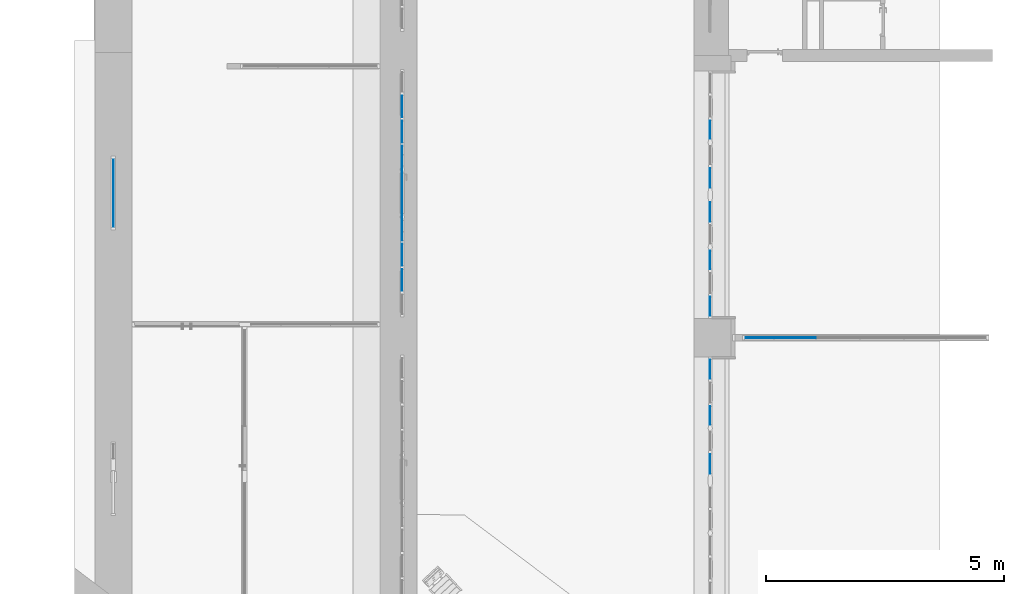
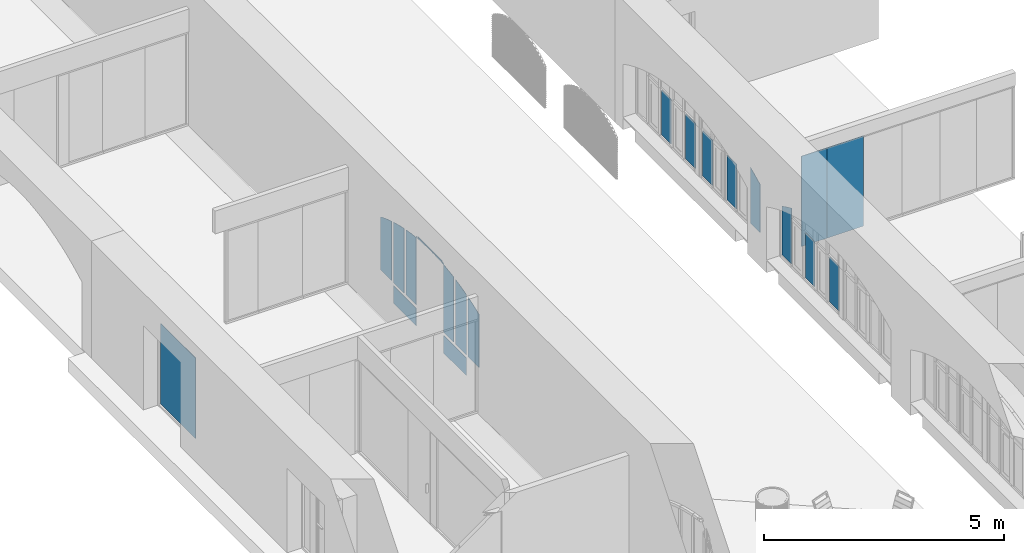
# One storey, part 54 of 88: 20 plates, 5 elements without a shape of their own.
"""IFC2X3 building model written with IfcOpenShell, lengths in millimetres."""

from ifc_helpers import new_model, entity, si_unit, converted_unit, derived_unit, direction, frame, frame_2d, origin, origin_2d_with_axis, place, context, subcontext, project, spatial, polyline, circle_curve, parameter, trimmed, segment, composite_curve, rectangle, outline, extrude, face_set, surface_model, source, transform, mapped, material, type_object, type_shapes, element, aggregate, save


model = new_model("IFC2X3")

# Units and contexts
model_context = context("Model", 3, precision=0.01, world=origin(), true_north=direction((6.123031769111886e-17, 1.0)))
body_context = subcontext(model_context, "Body", "Model", "MODEL_VIEW")
ifc_project = project(units=[si_unit("LENGTHUNIT", "METRE", prefix="MILLI"), si_unit("AREAUNIT", "SQUARE_METRE"), si_unit("VOLUMEUNIT", "CUBIC_METRE"), converted_unit("PLANEANGLEUNIT", "DEGREE", entity("IfcPlaneAngleMeasure", 0.017453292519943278), si_unit("PLANEANGLEUNIT", "RADIAN"), dimensions=[0, 0, 0, 0, 0, 0, 0]), si_unit("MASSUNIT", "GRAM", prefix="KILO"), derived_unit("MASSDENSITYUNIT", [(si_unit("MASSUNIT", "GRAM", prefix="KILO"), 1), (si_unit("LENGTHUNIT", "METRE"), -3)]), derived_unit("IONCONCENTRATIONUNIT", [(si_unit("MASSUNIT", "GRAM", prefix="KILO"), 1), (si_unit("LENGTHUNIT", "METRE"), -3)]), derived_unit("MOMENTOFINERTIAUNIT", [(si_unit("LENGTHUNIT", "METRE"), 4)]), si_unit("TIMEUNIT", "SECOND"), si_unit("FREQUENCYUNIT", "HERTZ"), si_unit("THERMODYNAMICTEMPERATUREUNIT", "DEGREE_CELSIUS"), derived_unit("THERMALTRANSMITTANCEUNIT", [(si_unit("MASSUNIT", "GRAM", prefix="KILO"), 1), (si_unit("THERMODYNAMICTEMPERATUREUNIT", "KELVIN"), -1), (si_unit("TIMEUNIT", "SECOND"), -3)]), derived_unit("THERMALCONDUCTANCEUNIT", [(si_unit("MASSUNIT", "GRAM", prefix="KILO"), 1), (si_unit("THERMODYNAMICTEMPERATUREUNIT", "KELVIN"), -1), (si_unit("TIMEUNIT", "SECOND"), -3), (si_unit("LENGTHUNIT", "METRE"), 1)]), derived_unit("VOLUMETRICFLOWRATEUNIT", [(si_unit("LENGTHUNIT", "METRE", prefix="DECI"), 3), (si_unit("TIMEUNIT", "SECOND"), -1)]), derived_unit("MASSFLOWRATEUNIT", [(si_unit("MASSUNIT", "GRAM", prefix="KILO"), 1), (si_unit("TIMEUNIT", "SECOND"), -1)]), derived_unit("ROTATIONALFREQUENCYUNIT", [(si_unit("TIMEUNIT", "SECOND"), -1)]), si_unit("ELECTRICCURRENTUNIT", "AMPERE"), si_unit("ELECTRICVOLTAGEUNIT", "VOLT"), si_unit("POWERUNIT", "WATT"), si_unit("FORCEUNIT", "NEWTON", prefix="KILO"), si_unit("ILLUMINANCEUNIT", "LUX"), si_unit("LUMINOUSFLUXUNIT", "LUMEN"), si_unit("LUMINOUSINTENSITYUNIT", "CANDELA"), si_unit("ENERGYUNIT", "JOULE"), derived_unit("USERDEFINED", [(si_unit("MASSUNIT", "GRAM", prefix="KILO"), -1), (si_unit("LENGTHUNIT", "METRE"), -2), (si_unit("TIMEUNIT", "SECOND"), 3), (si_unit("LUMINOUSFLUXUNIT", "LUMEN"), 1)]), derived_unit("USERDEFINED", [(si_unit("MASSUNIT", "GRAM", prefix="KILO"), 1), (si_unit("TIMEUNIT", "SECOND"), -3), (si_unit("LENGTHUNIT", "METRE"), 3), (si_unit("ELECTRICCURRENTUNIT", "AMPERE"), -2)]), derived_unit("SOUNDPOWERUNIT", [(si_unit("MASSUNIT", "GRAM", prefix="KILO"), 1), (si_unit("TIMEUNIT", "SECOND"), -3), (si_unit("LENGTHUNIT", "METRE"), 2)]), derived_unit("SOUNDPRESSUREUNIT", [(si_unit("MASSUNIT", "GRAM", prefix="KILO"), 1), (si_unit("LENGTHUNIT", "METRE"), -1), (si_unit("TIMEUNIT", "SECOND"), -2)]), derived_unit("LINEARVELOCITYUNIT", [(si_unit("LENGTHUNIT", "METRE"), 1), (si_unit("TIMEUNIT", "SECOND"), -1)]), si_unit("PRESSUREUNIT", "PASCAL"), derived_unit("USERDEFINED", [(si_unit("MASSUNIT", "GRAM", prefix="KILO"), 1), (si_unit("LENGTHUNIT", "METRE"), -2), (si_unit("TIMEUNIT", "SECOND"), -2)]), derived_unit("LINEARFORCEUNIT", [(si_unit("MASSUNIT", "GRAM", prefix="KILO"), 1), (si_unit("TIMEUNIT", "SECOND"), -2)]), derived_unit("PLANARFORCEUNIT", [(si_unit("MASSUNIT", "GRAM", prefix="KILO"), 1), (si_unit("LENGTHUNIT", "METRE"), -1), (si_unit("TIMEUNIT", "SECOND"), -2)]), derived_unit("SPECIFICHEATCAPACITYUNIT", [(si_unit("THERMODYNAMICTEMPERATUREUNIT", "KELVIN"), -1), (si_unit("LENGTHUNIT", "METRE"), 2), (si_unit("TIMEUNIT", "SECOND"), -2)]), derived_unit("HEATFLUXDENSITYUNIT", [(si_unit("MASSUNIT", "GRAM", prefix="KILO"), 1), (si_unit("TIMEUNIT", "SECOND"), -3)]), derived_unit("HEATINGVALUEUNIT", [(si_unit("LENGTHUNIT", "METRE"), 2), (si_unit("TIMEUNIT", "SECOND"), -2)]), derived_unit("VAPORPERMEABILITYUNIT", [(si_unit("LENGTHUNIT", "METRE"), -1), (si_unit("TIMEUNIT", "SECOND"), 1)]), derived_unit("DYNAMICVISCOSITYUNIT", [(si_unit("MASSUNIT", "GRAM", prefix="KILO"), 1), (si_unit("TIMEUNIT", "SECOND"), -1), (si_unit("LENGTHUNIT", "METRE"), -1)]), derived_unit("THERMALEXPANSIONCOEFFICIENTUNIT", [(si_unit("THERMODYNAMICTEMPERATUREUNIT", "KELVIN"), -1)]), derived_unit("MODULUSOFELASTICITYUNIT", [(si_unit("MASSUNIT", "GRAM", prefix="KILO"), 1), (si_unit("LENGTHUNIT", "METRE"), -1), (si_unit("TIMEUNIT", "SECOND"), -2)]), derived_unit("ISOTHERMALMOISTURECAPACITYUNIT", [(si_unit("MASSUNIT", "GRAM", prefix="KILO"), -1), (si_unit("LENGTHUNIT", "METRE"), 3)]), derived_unit("MOISTUREDIFFUSIVITYUNIT", [(si_unit("TIMEUNIT", "SECOND"), -1), (si_unit("LENGTHUNIT", "METRE"), 2)]), derived_unit("MASSPERLENGTHUNIT", [(si_unit("MASSUNIT", "GRAM", prefix="KILO"), 1), (si_unit("LENGTHUNIT", "METRE"), -1)]), derived_unit("THERMALRESISTANCEUNIT", [(si_unit("MASSUNIT", "GRAM", prefix="KILO"), -1), (si_unit("TIMEUNIT", "SECOND"), 3), (si_unit("THERMODYNAMICTEMPERATUREUNIT", "KELVIN"), 1)]), derived_unit("ACCELERATIONUNIT", [(si_unit("LENGTHUNIT", "METRE"), 1), (si_unit("TIMEUNIT", "SECOND"), -2)]), derived_unit("ANGULARVELOCITYUNIT", [(si_unit("TIMEUNIT", "SECOND"), -1), (si_unit("PLANEANGLEUNIT", "RADIAN"), 1)]), derived_unit("LINEARSTIFFNESSUNIT", [(si_unit("MASSUNIT", "GRAM", prefix="KILO"), 1), (si_unit("TIMEUNIT", "SECOND"), -2)]), derived_unit("WARPINGCONSTANTUNIT", [(si_unit("LENGTHUNIT", "METRE"), 6)]), derived_unit("LINEARMOMENTUNIT", [(si_unit("MASSUNIT", "GRAM", prefix="KILO"), 1), (si_unit("LENGTHUNIT", "METRE"), 1), (si_unit("TIMEUNIT", "SECOND"), -2)]), derived_unit("TORQUEUNIT", [(si_unit("MASSUNIT", "GRAM", prefix="KILO"), 1), (si_unit("LENGTHUNIT", "METRE"), 2), (si_unit("TIMEUNIT", "SECOND"), -2)])], contexts=[model_context])

# Site, building, storey
site_placement = place(None, origin())
site = spatial("IfcSite", under=ifc_project, at=site_placement, Name="Default", CompositionType="ELEMENT")
building_placement = place(site_placement, origin())
building = spatial("IfcBuilding", under=site, at=building_placement, Name="Eesti Rahvusraamatukogu hoone renoveerimise projekteerimistööd", CompositionType="ELEMENT")
storey_placement = place(building_placement, origin())
storey = spatial("IfcBuildingStorey", under=building, at=storey_placement, Name="1. korrus", CompositionType="ELEMENT", Elevation=0.0)

# Curtain wall, plates
curtain_wall_type_1 = type_object("IfcCurtainWallType", Name="Curtain Wall:VLS Klaasvahesein profiilita 38db", PredefinedType="NOTDEFINED")
curtain_wall_1_placement = place(storey_placement, origin())
curtain_wall_1 = element("IfcCurtainWall", 1, at=curtain_wall_1_placement, inside=storey, type_object=curtain_wall_type_1, Name="Curtain Wall:VLS Klaasvahesein profiilita 38db", ObjectType="Curtain Wall:VLS Klaasvahesein profiilita 38db")
ifc_material_1 = material(Name="EST. Klaas. 1x. E-korpus")
plate_type_1 = type_object("IfcPlateType", Name="System Panel:VLS Klaas KAR/LAM 6+1+6", PredefinedType="CURTAIN_PANEL", material=ifc_material_1)
shared_shape_1 = source(origin(), body_context, "Body", "SweptSolid", [
    extrude(rectangle(XDim=13.000000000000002, YDim=618.0000000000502, at=frame_2d((0.0, -5.684341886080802e-14), x_axis=(1.0, 0.0))), frame((0.0, 0.0, 0.0), z_axis=(0.0, 0.0, 1.0), x_axis=(0.0, 1.0, 0.0)), (0.0, 0.0, 1.0), 2300.0000000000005),
])
type_shapes(plate_type_1, [shared_shape_1])
plate_1_placement = place(curtain_wall_1_placement, frame((-35406.499999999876, 18390.0, 1700.0)))
plate_1 = element("IfcPlate", 2, at=plate_1_placement, type_object=plate_type_1, material=ifc_material_1, Name="System Panel:VLS Klaas KAR/LAM 6+1+6", ObjectType="System Panel:VLS Klaas KAR/LAM 6+1+6", context=body_context, shape_type="MappedRepresentation", body=[
    mapped(shared_shape_1, transform((0.0, 0.0, 0.0), scale=1.0)),
])
plate_type_2 = type_object("IfcPlateType", Name="System Panel:VLS Klaas KAR/LAM 6+1+6", PredefinedType="CURTAIN_PANEL", material=ifc_material_1)
shared_shape_2 = source(origin(), body_context, "Body", "SweptSolid", [
    extrude(rectangle(XDim=13.000000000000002, YDim=877.5000000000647, at=origin_2d_with_axis()), frame((0.0, 0.0, 0.0), z_axis=(0.0, 0.0, 1.0), x_axis=(0.0, 1.0, 0.0)), (0.0, 0.0, 1.0), 2300.0000000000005),
])
type_shapes(plate_type_2, [shared_shape_2])
plate_2_placement = place(curtain_wall_1_placement, frame((-34658.749999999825, 18390.0, 1700.0)))
plate_2 = element("IfcPlate", 3, at=plate_2_placement, type_object=plate_type_2, material=ifc_material_1, Name="System Panel:VLS Klaas KAR/LAM 6+1+6", ObjectType="System Panel:VLS Klaas KAR/LAM 6+1+6", context=body_context, shape_type="MappedRepresentation", body=[
    mapped(shared_shape_2, transform((0.0, 0.0, 0.0), scale=1.0)),
])
aggregate(curtain_wall_1, [plate_1, plate_2])

# Curtain wall, plate
curtain_wall_type_2 = type_object("IfcCurtainWallType", Name="Curtain Wall:Ak-02", PredefinedType="NOTDEFINED")
curtain_wall_2_placement = place(storey_placement, origin())
curtain_wall_2 = element("IfcCurtainWall", 4, at=curtain_wall_2_placement, inside=storey, type_object=curtain_wall_type_2, Name="Curtain Wall:Ak-02", ObjectType="Curtain Wall:Ak-02")
ifc_material_2 = material(Name="EST. Klaas. 3x. Default")
plate_type_3 = type_object("IfcPlateType", Name="System Panel:Peegelaknad 6-16-4-16-4, paneel", PredefinedType="CURTAIN_PANEL", material=ifc_material_2)
shared_shape_3 = source(origin(), body_context, "Body", "SweptSolid", [
    extrude(outline(composite_curve([segment(polyline([(-838.8855000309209, -200.0), (351.11449996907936, -200.0)]), True, "CONTINUOUS"), segment(polyline([(351.11449996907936, -200.0), (392.3931648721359, -200.0)]), True, "CONTINUOUS"), segment(trimmed(circle_curve(frame_2d((-4419.029401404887, 2340.0), x_axis=(0.9248280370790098, -0.38038546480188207)), 5440.715680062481), [parameter(354.5275221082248)], [parameter(359.19566238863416)], True, "PARAMETER"), True, "CONTINUOUS"), segment(polyline([(583.1488352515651, 200.0), (351.11449996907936, 200.0)]), True, "CONTINUOUS"), segment(polyline([(351.11449996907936, 200.0), (-838.8855000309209, 200.0)]), True, "CONTINUOUS"), segment(polyline([(-838.8855000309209, 200.0), (-838.8855000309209, -200.0)]), True, "CONTINUOUS")], self_intersect=False)), frame((0.0, -5.0, 838.8855000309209), z_axis=(0.0, 1.0, 0.0), x_axis=(0.0, 0.0, 1.0)), (0.0, 0.0, 1.0), 10.0),
])
type_shapes(plate_type_3, [shared_shape_3])
plate_3_placement = place(curtain_wall_2_placement, frame((-36440.0, 17730.0, 2030.0), z_axis=(0.0, 0.0, 1.0), x_axis=(0.0, -1.0, 0.0)))
plate_3 = element("IfcPlate", 5, at=plate_3_placement, type_object=plate_type_3, material=ifc_material_2, Name="System Panel:Peegelaknad 6-16-4-16-4, paneel", ObjectType="System Panel:Peegelaknad 6-16-4-16-4, paneel", context=body_context, shape_type="MappedRepresentation", body=[
    mapped(shared_shape_3, transform((0.0, 0.0, 0.0), scale=1.0)),
])

# Curtain wall, plates
curtain_wall_3_placement = place(storey_placement, origin())
curtain_wall_3 = element("IfcCurtainWall", 6, at=curtain_wall_3_placement, inside=storey, type_object=curtain_wall_type_2, Name="Curtain Wall:Ak-02", ObjectType="Curtain Wall:Ak-02")
plate_type_4 = type_object("IfcPlateType", Name="System Panel:Peegelaknad 6-16-4-16-4, paneel", PredefinedType="CURTAIN_PANEL", material=ifc_material_2)
shared_shape_4 = source(origin(), body_context, "Body", "SweptSolid", [
    extrude(rectangle(XDim=10.0, YDim=384.9999999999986, at=origin_2d_with_axis()), frame((0.0, 0.0, 0.0), z_axis=(0.0, 0.0, 1.0), x_axis=(0.0, 1.0, 0.0)), (0.0, 0.0, 1.0), 1150.0000000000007),
])
type_shapes(plate_type_4, [shared_shape_4])
plate_4_placement = place(curtain_wall_3_placement, frame((-36440.0, 22757.49999999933, 2030.0), z_axis=(0.0, 0.0, 1.0), x_axis=(0.0, -1.0, 0.0)))
plate_4 = element("IfcPlate", 7, at=plate_4_placement, type_object=plate_type_4, material=ifc_material_2, Name="System Panel:Peegelaknad 6-16-4-16-4, paneel", ObjectType="System Panel:Peegelaknad 6-16-4-16-4, paneel", context=body_context, shape_type="MappedRepresentation", body=[
    mapped(shared_shape_4, transform((0.0, 0.0, 0.0), scale=1.0)),
])
plate_5_placement = place(curtain_wall_3_placement, frame((-36440.0, 20022.500000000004, 2030.0), z_axis=(0.0, 0.0, 1.0), x_axis=(0.0, -1.0, 0.0)))
plate_5 = element("IfcPlate", 8, at=plate_5_placement, type_object=plate_type_4, material=ifc_material_2, Name="System Panel:Peegelaknad 6-16-4-16-4, paneel", ObjectType="System Panel:Peegelaknad 6-16-4-16-4, paneel", context=body_context, shape_type="MappedRepresentation", body=[
    mapped(shared_shape_4, transform((0.0, 0.0, 0.0), scale=1.0)),
])

# Plate
plate_6_placement = place(curtain_wall_2_placement, frame((-36440.0, 16757.49999999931, 2030.0), z_axis=(0.0, 0.0, 1.0), x_axis=(0.0, -1.0, 0.0)))
plate_6 = element("IfcPlate", 9, at=plate_6_placement, type_object=plate_type_4, material=ifc_material_2, Name="System Panel:Peegelaknad 6-16-4-16-4, paneel", ObjectType="System Panel:Peegelaknad 6-16-4-16-4, paneel", context=body_context, shape_type="MappedRepresentation", body=[
    mapped(shared_shape_4, transform((0.0, 0.0, 0.0), scale=1.0)),
])

plate_type_5 = type_object("IfcPlateType", Name="System Panel:Peegelaknad 6-16-4-16-4, paneel", PredefinedType="CURTAIN_PANEL", material=ifc_material_2)
shared_shape_5 = source(origin(), body_context, "Body", "SweptSolid", [
    extrude(rectangle(XDim=10.0, YDim=409.9999999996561, at=origin_2d_with_axis()), frame((0.0, 0.0, 0.0), z_axis=(0.0, 0.0, 1.0), x_axis=(0.0, 1.0, 0.0)), (0.0, 0.0, 1.0), 1150.0000000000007),
])
type_shapes(plate_type_5, [shared_shape_5])
plate_7_placement = place(curtain_wall_3_placement, frame((-36440.0, 21745.0, 2030.0), z_axis=(0.0, 0.0, 1.0), x_axis=(0.0, -1.0, 0.0)))
plate_7 = element("IfcPlate", 10, at=plate_7_placement, type_object=plate_type_5, material=ifc_material_2, Name="System Panel:Peegelaknad 6-16-4-16-4, paneel", ObjectType="System Panel:Peegelaknad 6-16-4-16-4, paneel", context=body_context, shape_type="MappedRepresentation", body=[
    mapped(shared_shape_5, transform((0.0, 0.0, 0.0), scale=1.0)),
])

plate_8_placement = place(curtain_wall_3_placement, frame((-36440.0, 21035.0, 2030.0), z_axis=(0.0, 0.0, 1.0), x_axis=(0.0, -1.0, 0.0)))
plate_8 = element("IfcPlate", 11, at=plate_8_placement, type_object=plate_type_5, material=ifc_material_2, Name="System Panel:Peegelaknad 6-16-4-16-4, paneel", ObjectType="System Panel:Peegelaknad 6-16-4-16-4, paneel", context=body_context, shape_type="MappedRepresentation", body=[
    mapped(shared_shape_5, transform((0.0, 0.0, 0.0), scale=1.0)),
])

plate_9_placement = place(curtain_wall_2_placement, frame((-36440.0, 15745.0, 2030.0), z_axis=(0.0, 0.0, 1.0), x_axis=(0.0, -1.0, 0.0)))
plate_9 = element("IfcPlate", 12, at=plate_9_placement, type_object=plate_type_5, material=ifc_material_2, Name="System Panel:Peegelaknad 6-16-4-16-4, paneel", ObjectType="System Panel:Peegelaknad 6-16-4-16-4, paneel", context=body_context, shape_type="MappedRepresentation", body=[
    mapped(shared_shape_5, transform((0.0, 0.0, 0.0), scale=1.0)),
])

aggregate(curtain_wall_2, [plate_3, plate_6, plate_9])

plate_type_6 = type_object("IfcPlateType", Name="System Panel:Peegelaknad 6-16-4-16-4, paneel", PredefinedType="CURTAIN_PANEL", material=ifc_material_2)
shared_shape_6 = source(origin(), body_context, "Body", "SweptSolid", [
    extrude(outline(composite_curve([segment(polyline([(-838.8855000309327, 200.0), (-838.8855000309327, -200.0)]), True, "CONTINUOUS"), segment(polyline([(-838.8855000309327, -200.0), (351.11449996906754, -200.0)]), True, "CONTINUOUS"), segment(polyline([(351.11449996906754, -200.0), (392.39316487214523, -200.0)]), True, "CONTINUOUS"), segment(trimmed(circle_curve(frame_2d((-4419.029401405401, 2340.0), x_axis=(0.8821580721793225, -0.4709534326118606)), 5440.715680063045), [parameter(0.2661645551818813)], [parameter(4.934304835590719)], True, "PARAMETER"), True, "CONTINUOUS"), segment(polyline([(583.1488352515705, 200.0), (351.11449996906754, 200.0)]), True, "CONTINUOUS"), segment(polyline([(351.11449996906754, 200.0), (-838.8855000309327, 200.0)]), True, "CONTINUOUS")], self_intersect=False)), frame((0.0, -5.0, 838.8855000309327), z_axis=(0.0, -1.0, 0.0), x_axis=(0.0, 0.0, 1.0)), (0.0, 0.0, -1.0), 10.0),
])
type_shapes(plate_type_6, [shared_shape_6])
plate_10_placement = place(curtain_wall_3_placement, frame((-36440.0, 19050.0, 2030.0), z_axis=(0.0, 0.0, 1.0), x_axis=(0.0, -1.0, 0.0)))
plate_10 = element("IfcPlate", 13, at=plate_10_placement, type_object=plate_type_6, material=ifc_material_2, Name="System Panel:Peegelaknad 6-16-4-16-4, paneel", ObjectType="System Panel:Peegelaknad 6-16-4-16-4, paneel", context=body_context, shape_type="MappedRepresentation", body=[
    mapped(shared_shape_6, transform((0.0, 0.0, 0.0), scale=1.0)),
])

aggregate(curtain_wall_3, [plate_4, plate_7, plate_8, plate_5, plate_10])

# Curtain wall, plates
curtain_wall_type_3 = type_object("IfcCurtainWallType", Name="Curtain Wall:Ak-05", PredefinedType="NOTDEFINED")
curtain_wall_4_placement = place(storey_placement, origin())
curtain_wall_4 = element("IfcCurtainWall", 14, at=curtain_wall_4_placement, inside=storey, type_object=curtain_wall_type_3, Name="Curtain Wall:Ak-05", ObjectType="Curtain Wall:Ak-05")
plate_type_7 = type_object("IfcPlateType", Name="System Panel:Peegelaknad 6-16-4-16-4, paneel", PredefinedType="CURTAIN_PANEL", material=ifc_material_2)
shared_shape_7 = source(origin(), body_context, "Body", "SweptSolid", [
    extrude(rectangle(XDim=450.00000000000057, YDim=944.9999999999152, at=frame_2d((0.0, -5.833333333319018), x_axis=(1.0, 0.0))), frame((5.833333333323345, -5.0, 225.0), z_axis=(0.0, 1.0, 0.0), x_axis=(0.0, 0.0, 1.0)), (0.0, 0.0, 1.0), 10.0),
])
type_shapes(plate_type_7, [shared_shape_7])
plate_11_placement = place(curtain_wall_4_placement, frame((-42905.0, 22472.49999999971, 10.0), z_axis=(0.0, 0.0, 1.0), x_axis=(0.0, -1.0, 0.0)))
plate_11 = element("IfcPlate", 15, at=plate_11_placement, type_object=plate_type_7, material=ifc_material_2, Name="System Panel:Peegelaknad 6-16-4-16-4, paneel", ObjectType="System Panel:Peegelaknad 6-16-4-16-4, paneel", context=body_context, shape_type="MappedRepresentation", body=[
    mapped(shared_shape_7, transform((0.0, 0.0, 0.0), scale=1.0)),
])
plate_type_8 = type_object("IfcPlateType", Name="System Panel:Peegelaknad 6-16-4-16-4, paneel", PredefinedType="CURTAIN_PANEL", material=ifc_material_2)
shared_shape_8 = source(origin(), body_context, "Body", "SweptSolid", [
    extrude(rectangle(XDim=450.00000000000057, YDim=945.0000000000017, at=frame_2d((0.0, 5.833333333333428), x_axis=(1.0, 0.0))), frame((-5.8333333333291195, -5.0, 225.0), z_axis=(0.0, 1.0, 0.0), x_axis=(0.0, 0.0, 1.0)), (0.0, 0.0, 1.0), 10.0),
])
type_shapes(plate_type_8, [shared_shape_8])
plate_12_placement = place(curtain_wall_4_placement, frame((-42905.0, 20377.499999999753, 10.0), z_axis=(0.0, 0.0, 1.0), x_axis=(0.0, -1.0, 0.0)))
plate_12 = element("IfcPlate", 16, at=plate_12_placement, type_object=plate_type_8, material=ifc_material_2, Name="System Panel:Peegelaknad 6-16-4-16-4, paneel", ObjectType="System Panel:Peegelaknad 6-16-4-16-4, paneel", context=body_context, shape_type="MappedRepresentation", body=[
    mapped(shared_shape_8, transform((0.0, 0.0, 0.0), scale=1.0)),
])
plate_type_9 = type_object("IfcPlateType", Name="System Panel:Peegelaknad 6-16-4-16-4, paneel", PredefinedType="CURTAIN_PANEL", material=ifc_material_2)
shared_shape_9 = source(origin(), body_context, "Body", "SweptSolid", [
    extrude(outline(composite_curve([segment(polyline([(-715.3148161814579, -225.0), (635.487411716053, -225.0)]), True, "CONTINUOUS"), segment(trimmed(circle_curve(frame_2d((-4428.595382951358, 1825.0), x_axis=(0.9592847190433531, -0.2824408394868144)), 5463.280566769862), [parameter(354.3672571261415)], [parameter(359.3764184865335)], True, "PARAMETER"), True, "CONTINUOUS"), segment(polyline([(795.1422206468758, 225.0), (-715.3148161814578, 225.0)]), True, "CONTINUOUS"), segment(polyline([(-715.3148161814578, 225.0), (-715.3148161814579, -225.0)]), True, "CONTINUOUS")], self_intersect=False)), frame((0.0, -5.0, 715.3148161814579), z_axis=(0.0, 1.0, 0.0), x_axis=(0.0, 0.0, 1.0)), (0.0, 0.0, 1.0), 10.0),
])
type_shapes(plate_type_9, [shared_shape_9])
plate_13_placement = place(curtain_wall_4_placement, frame((-42905.0, 23250.0, 540.0), z_axis=(0.0, 0.0, 1.0), x_axis=(0.0, -1.0, 0.0)))
plate_13 = element("IfcPlate", 17, at=plate_13_placement, type_object=plate_type_9, material=ifc_material_2, Name="System Panel:Peegelaknad 6-16-4-16-4, paneel", ObjectType="System Panel:Peegelaknad 6-16-4-16-4, paneel", context=body_context, shape_type="MappedRepresentation", body=[
    mapped(shared_shape_9, transform((0.0, 0.0, 0.0), scale=1.0)),
])
plate_type_10 = type_object("IfcPlateType", Name="System Panel:Peegelaknad 6-16-4-16-4, paneel", PredefinedType="CURTAIN_PANEL", material=ifc_material_2)
shared_shape_10 = source(origin(), body_context, "Body", "SweptSolid", [
    extrude(outline(composite_curve([segment(polyline([(-794.6219170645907, -225.0), (739.6716748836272, -225.0)]), True, "CONTINUOUS"), segment(trimmed(circle_curve(frame_2d((-4507.902483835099, 1295.0), x_axis=(0.9824581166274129, -0.18648337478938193)), 5463.2805667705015), [parameter(354.5935648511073)], [parameter(359.45306970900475)], True, "PARAMETER"), True, "CONTINUOUS"), segment(polyline([(849.5721592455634, 225.0), (-794.6219170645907, 225.0)]), True, "CONTINUOUS"), segment(polyline([(-794.6219170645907, 225.0), (-794.6219170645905, -225.0)]), True, "CONTINUOUS")], self_intersect=False)), frame((0.0, -5.0, 794.6219170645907), z_axis=(0.0, 1.0, 0.0), x_axis=(0.0, 0.0, 1.0)), (0.0, 0.0, 1.0), 10.0),
])
type_shapes(plate_type_10, [shared_shape_10])
plate_14_placement = place(curtain_wall_4_placement, frame((-42905.0, 22720.0, 540.0), z_axis=(0.0, 0.0, 1.0), x_axis=(0.0, -1.0, 0.0)))
plate_14 = element("IfcPlate", 18, at=plate_14_placement, type_object=plate_type_10, material=ifc_material_2, Name="System Panel:Peegelaknad 6-16-4-16-4, paneel", ObjectType="System Panel:Peegelaknad 6-16-4-16-4, paneel", context=body_context, shape_type="MappedRepresentation", body=[
    mapped(shared_shape_10, transform((0.0, 0.0, 0.0), scale=1.0)),
])
plate_type_11 = type_object("IfcPlateType", Name="System Panel:Peegelaknad 6-16-4-16-4, paneel", PredefinedType="CURTAIN_PANEL", material=ifc_material_2)
shared_shape_11 = source(origin(), body_context, "Body", "SurfaceModel", [
    surface_model("IfcFaceBasedSurfaceModel", [(-245.0, -5.0, 0.0), (170.0, -5.0, 0.0), (170.0, -5.0, 1750.0), (245.0, -5.0, 1750.0), (245.0, -5.0, 1727.0718621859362), (93.20177957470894, -5.0, 1710.979164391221), (-58.08758672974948, -5.0, 1690.6517865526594), (-151.67863011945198, -5.0, 1675.9125069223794), (-245.0, -5.0, 1659.5524430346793), (-245.0, 5.0, 0.0), (-245.0, 5.0, 1659.5524430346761), (-151.67863011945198, 5.0, 1675.9125069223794), (-58.08758672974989, 5.0, 1690.6517865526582), (93.20177957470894, 5.0, 1710.979164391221), (245.0, 5.0, 1727.071862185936), (245.0, 5.0, 1750.0), (170.0, 5.0, 1750.0), (170.0, 5.0, 0.0)], [face_set([[[0, 1, 2, 3, 4, 5, 6, 7, 8]], [[9, 10, 11, 12, 13, 14, 15, 16, 17]], [[1, 0, 9, 17]], [[2, 1, 17, 16]], [[3, 15, 16, 2]], [[4, 14, 15, 3]], [[5, 4, 14, 13]], [[12, 6, 5, 13]], [[7, 6, 12, 11]], [[10, 8, 7, 11]], [[0, 8, 10, 9]]])]),
])
type_shapes(plate_type_11, [shared_shape_11])
plate_15_placement = place(curtain_wall_4_placement, frame((-42905.0, 22170.0, 540.0), z_axis=(0.0, 0.0, 1.0), x_axis=(0.0, -1.0, 0.0)))
plate_15 = element("IfcPlate", 19, at=plate_15_placement, type_object=plate_type_11, material=ifc_material_2, Name="System Panel:Peegelaknad 6-16-4-16-4, paneel", ObjectType="System Panel:Peegelaknad 6-16-4-16-4, paneel", context=body_context, shape_type="MappedRepresentation", body=[
    mapped(shared_shape_11, transform((0.0, 0.0, 0.0), scale=1.0)),
])
plate_type_12 = type_object("IfcPlateType", Name="System Panel:Peegelaknad 6-16-4-16-4, paneel", PredefinedType="CURTAIN_PANEL", material=ifc_material_2)
shared_shape_12 = source(origin(), body_context, "Body", "SurfaceModel", [
    surface_model("IfcFaceBasedSurfaceModel", [(-170.0, -5.0, 0.0), (245.0, -5.0, 0.0), (245.0, -5.0, 1659.5524430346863), (151.67863011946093, -5.0, 1675.9125069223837), (58.08758672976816, -5.0, 1690.6517865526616), (-93.2017795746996, -5.0, 1710.979164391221), (-245.0, -5.0, 1727.071862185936), (-245.0, -5.0, 1750.0), (-170.0, -5.0, 1750.0), (-170.0, 5.0, 0.0), (245.0, 5.0, 0.0), (245.0, 5.0, 1659.552443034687), (151.67863011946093, 5.0, 1675.9125069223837), (58.08758672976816, 5.0, 1690.6517865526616), (-93.2017795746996, 5.0, 1710.979164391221), (-245.0, 5.0, 1727.071862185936), (-245.0, 5.0, 1750.0), (-170.0, 5.0, 1750.0)], [face_set([[[0, 1, 2, 3, 4, 5, 6, 7, 8]], [[9, 10, 11, 12, 13, 14, 15, 16, 17]], [[1, 0, 9, 10]], [[2, 1, 10, 11]], [[3, 2, 11, 12]], [[13, 4, 3, 12]], [[4, 13, 14, 5]], [[15, 6, 5, 14]], [[7, 16, 15, 6]], [[8, 17, 16, 7]], [[0, 8, 17, 9]]])]),
])
type_shapes(plate_type_12, [shared_shape_12])
plate_16_placement = place(curtain_wall_4_placement, frame((-42905.0, 20680.0, 540.0), z_axis=(0.0, 0.0, 1.0), x_axis=(0.0, -1.0, 0.0)))
plate_16 = element("IfcPlate", 20, at=plate_16_placement, type_object=plate_type_12, material=ifc_material_2, Name="System Panel:Peegelaknad 6-16-4-16-4, paneel", ObjectType="System Panel:Peegelaknad 6-16-4-16-4, paneel", context=body_context, shape_type="MappedRepresentation", body=[
    mapped(shared_shape_12, transform((0.0, 0.0, 0.0), scale=1.0)),
])
plate_type_13 = type_object("IfcPlateType", Name="System Panel:Peegelaknad 6-16-4-16-4, paneel", PredefinedType="CURTAIN_PANEL", material=ifc_material_2)
shared_shape_13 = source(origin(), body_context, "Body", "SweptSolid", [
    extrude(outline(composite_curve([segment(polyline([(-794.621917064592, 225.0), (-794.621917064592, -225.0)]), True, "CONTINUOUS"), segment(polyline([(-794.621917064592, -225.0), (739.6716748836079, -225.0)]), True, "CONTINUOUS"), segment(trimmed(circle_curve(frame_2d((-4507.902483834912, 1295.0), x_axis=(0.9592847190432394, -0.2824408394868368)), 5463.280566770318), [parameter(0.25187197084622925)], [parameter(5.111376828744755)], True, "PARAMETER"), True, "CONTINUOUS"), segment(polyline([(849.5721592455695, 225.0), (-794.621917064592, 225.0)]), True, "CONTINUOUS")], self_intersect=False)), frame((0.0, -5.0, 794.621917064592), z_axis=(0.0, -1.0, 0.0), x_axis=(0.0, 0.0, 1.0)), (0.0, 0.0, -1.0), 10.0),
])
type_shapes(plate_type_13, [shared_shape_13])
plate_17_placement = place(curtain_wall_4_placement, frame((-42905.0, 20130.0, 540.0), z_axis=(0.0, 0.0, 1.0), x_axis=(0.0, -1.0, 0.0)))
plate_17 = element("IfcPlate", 21, at=plate_17_placement, type_object=plate_type_13, material=ifc_material_2, Name="System Panel:Peegelaknad 6-16-4-16-4, paneel", ObjectType="System Panel:Peegelaknad 6-16-4-16-4, paneel", context=body_context, shape_type="MappedRepresentation", body=[
    mapped(shared_shape_13, transform((0.0, 0.0, 0.0), scale=1.0)),
])
plate_type_14 = type_object("IfcPlateType", Name="System Panel:Peegelaknad 6-16-4-16-4, paneel", PredefinedType="CURTAIN_PANEL", material=ifc_material_2)
shared_shape_14 = source(origin(), body_context, "Body", "SweptSolid", [
    extrude(outline(composite_curve([segment(polyline([(-715.3148161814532, 225.0), (-715.3148161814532, -225.0)]), True, "CONTINUOUS"), segment(polyline([(-715.3148161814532, -225.0), (635.4874117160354, -225.0)]), True, "CONTINUOUS"), segment(trimmed(circle_curve(frame_2d((-4428.59538295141, 1825.0), x_axis=(0.9256428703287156, -0.3783983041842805)), 5463.280566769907), [parameter(0.19582649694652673)], [parameter(5.204987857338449)], True, "PARAMETER"), True, "CONTINUOUS"), segment(polyline([(795.1422206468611, 225.0), (-715.3148161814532, 225.0)]), True, "CONTINUOUS")], self_intersect=False)), frame((0.0, -5.0, 715.3148161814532), z_axis=(0.0, -1.0, 0.0), x_axis=(0.0, 0.0, 1.0)), (0.0, 0.0, -1.0), 10.0),
])
type_shapes(plate_type_14, [shared_shape_14])
plate_18_placement = place(curtain_wall_4_placement, frame((-42905.0, 19600.0, 540.0), z_axis=(0.0, 0.0, 1.0), x_axis=(0.0, -1.0, 0.0)))
plate_18 = element("IfcPlate", 22, at=plate_18_placement, type_object=plate_type_14, material=ifc_material_2, Name="System Panel:Peegelaknad 6-16-4-16-4, paneel", ObjectType="System Panel:Peegelaknad 6-16-4-16-4, paneel", context=body_context, shape_type="MappedRepresentation", body=[
    mapped(shared_shape_14, transform((0.0, 0.0, 0.0), scale=1.0)),
])
ifc_material_3 = material(Name="<Unnamed>")
plate_type_15 = type_object("IfcPlateType", Name="System Panel:Peegelaknad 6-16-4-16-4, paneel", PredefinedType="CURTAIN_PANEL", material=ifc_material_3)
shared_shape_15 = source(origin(), body_context, "Body", "SweptSolid", [
    extrude(outline(composite_curve([segment(polyline([(18.907544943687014, -500.34273422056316), (71.61836514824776, -495.5513663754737)]), True, "CONTINUOUS"), segment(polyline([(71.61836514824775, -495.5513663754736), (-18.907544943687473, 500.3427342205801)]), True, "CONTINUOUS"), segment(polyline([(-18.907544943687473, 500.3427342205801), (-71.61836514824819, 495.5513663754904)]), True, "CONTINUOUS"), segment(trimmed(circle_curve(frame_2d((-5444.3702992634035, -494.8885387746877), x_axis=(1.0, 0.0)), 5463.280566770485), [parameter(359.94279949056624)], [parameter(10.444926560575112)], True, "PARAMETER"), False, "CONTINUOUS")], self_intersect=False)), frame((0.0, -5.0, 26.46406890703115), z_axis=(0.0, -1.0, 0.0), x_axis=(0.0905259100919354, 0.0, 0.9958941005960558)), (0.0, 0.0, -1.0), 10.0),
])
type_shapes(plate_type_15, [shared_shape_15])
plate_19_placement = place(curtain_wall_4_placement, frame((-42905.0, 21425.0, 2267.0718621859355), z_axis=(0.0, 0.0, 1.0), x_axis=(0.0, -1.0, 0.0)))
plate_19 = element("IfcPlate", 23, at=plate_19_placement, type_object=plate_type_15, material=ifc_material_3, Name="System Panel:Peegelaknad 6-16-4-16-4, paneel", ObjectType="System Panel:Peegelaknad 6-16-4-16-4, paneel", context=body_context, shape_type="MappedRepresentation", body=[
    mapped(shared_shape_15, transform((0.0, 0.0, 0.0), scale=1.0)),
])
aggregate(curtain_wall_4, [plate_11, plate_12, plate_13, plate_14, plate_15, plate_16, plate_17, plate_18, plate_19])

# Curtain wall, plate
curtain_wall_5_placement = place(storey_placement, origin())
curtain_wall_5 = element("IfcCurtainWall", 24, at=curtain_wall_5_placement, inside=storey, type_object=curtain_wall_type_1, Name="Curtain Wall:VLS Klaasvahesein profiilita 38db", ObjectType="Curtain Wall:VLS Klaasvahesein profiilita 38db")
plate_type_16 = type_object("IfcPlateType", Name="System Panel:VLS Klaas KAR/LAM 6+1+6", PredefinedType="CURTAIN_PANEL", material=ifc_material_1)
shared_shape_16 = source(origin(), body_context, "Body", "SweptSolid", [
    extrude(rectangle(XDim=13.000000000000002, YDim=1449.9999999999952, at=origin_2d_with_axis()), frame((0.0, 0.0, 0.0), z_axis=(0.0, 0.0, 1.0), x_axis=(0.0, 1.0, 0.0)), (0.0, 0.0, 1.0), 2050.0),
])
type_shapes(plate_type_16, [shared_shape_16])
plate_20_placement = place(curtain_wall_5_placement, frame((-48970.0, 21430.0, 50.0), z_axis=(0.0, 0.0, 1.0), x_axis=(0.0, -1.0, 0.0)))
plate_20 = element("IfcPlate", 25, at=plate_20_placement, type_object=plate_type_16, material=ifc_material_1, Name="System Panel:VLS Klaas KAR/LAM 6+1+6", ObjectType="System Panel:VLS Klaas KAR/LAM 6+1+6", context=body_context, shape_type="MappedRepresentation", body=[
    mapped(shared_shape_16, transform((0.0, 0.0, 0.0), scale=1.0)),
])
aggregate(curtain_wall_5, [plate_20])

save(model, "model.ifc")
